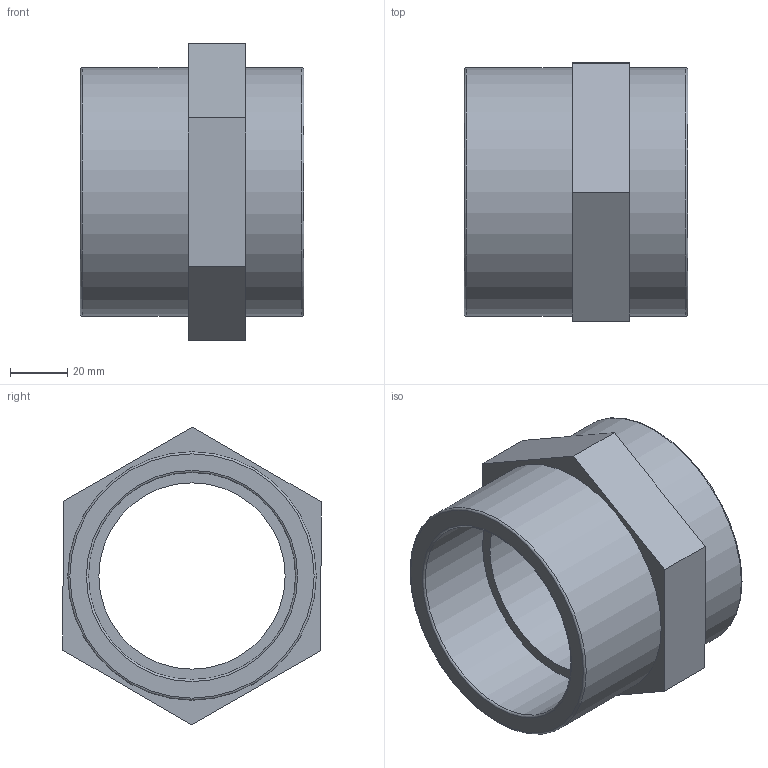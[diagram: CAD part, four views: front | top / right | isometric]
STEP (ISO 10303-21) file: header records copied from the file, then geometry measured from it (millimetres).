
FILE_DESCRIPTION(/* description */ ('PLASSON THREADED SOCKET PVC 2.1/2"'),/* implementation_level */ '2;1');
FILE_NAME(/* name */ 'C:\Dropbox\KIMPROJECTS-Inventor\99-16-3568-Processing\PVC Catalog 2017\050101\050101025.ipt.stp',/* time_stamp */ '2017-12-07T15:51:45+02:00',/* author */ ('KIM'),/* organization */ (''),/* preprocessor_version */ 'ST-DEVELOPER v15.6',/* originating_system */ 'Autodesk Inventor 2015',/* authorisation */ '');
FILE_SCHEMA (('AUTOMOTIVE_DESIGN { 1 0 10303 214 3 1 1 }'));
Length unit declared in the file: millimetre
Products named in the file (1): 050101025
Bounding box: 78 x 90.15 x 103.92 mm (x, y, z)
Volume: 178369.4 mm3; surface area: 46355.5 mm2
Topology: 1 solids, 1 shells, 21 faces, 41 edges, 26 vertices
Faces by surface type: plane 12, cylinder 5, torus 4
Full cylindrical faces by diameter (mm): 65.003 x1, 72.226 x2, 86.671 x2
Entity records: 520 total; most frequent: DIRECTION 90, CARTESIAN_POINT 80, ORIENTED_EDGE 64, EDGE_LOOP 36, AXIS2_PLACEMENT_3D 36, EDGE_CURVE 32, VERTEX_POINT 26, FACE_OUTER_BOUND 21
